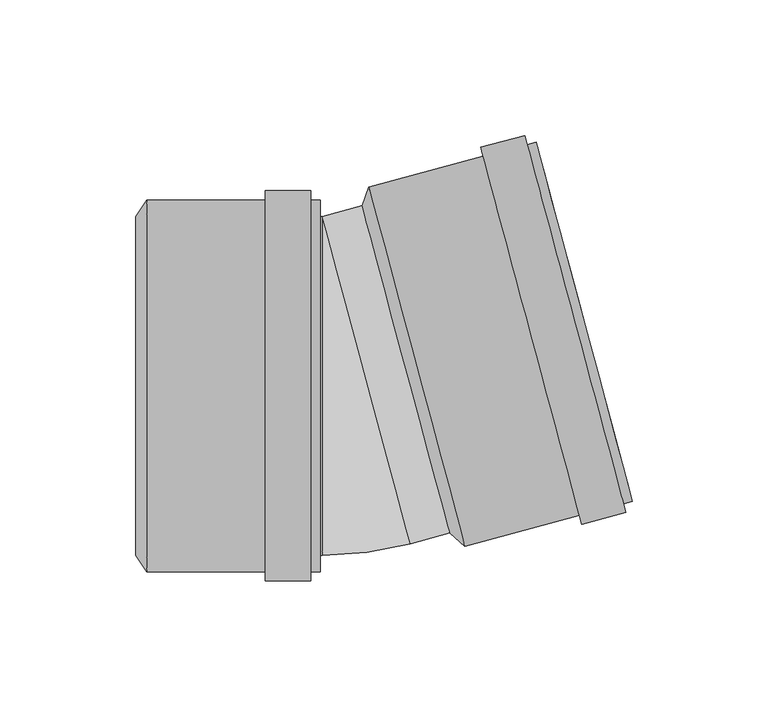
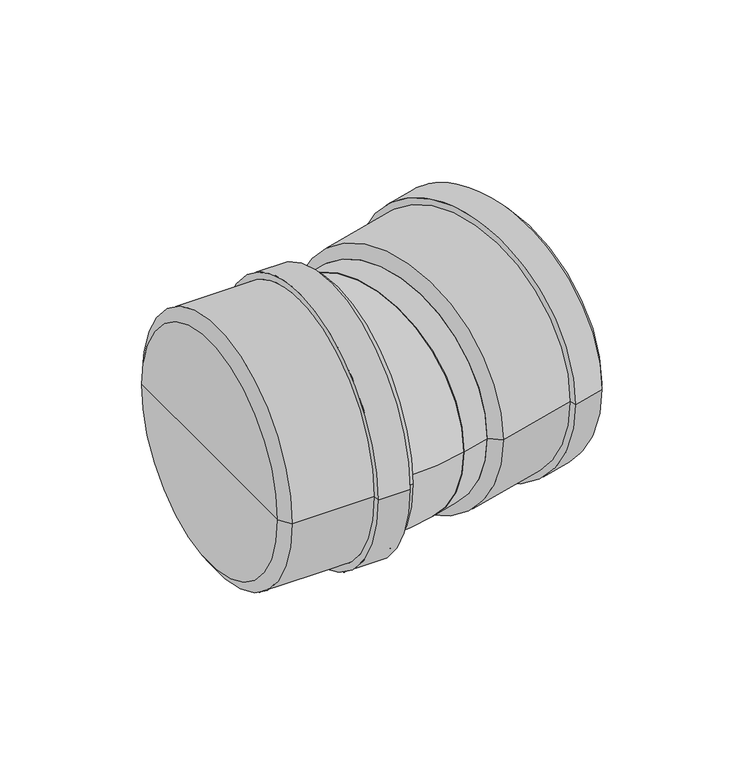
"""IFC4 building model written with IfcOpenShell, lengths in millimetres: pipe fitting geometry, pf_KGB : pf_KGB."""

from ifc_helpers import new_model, si_unit, point, frame, origin, origin_2d, place, context, project, spatial, polyline, circle_curve, ellipse_curve, trimmed, segment, composite_curve, outline, extrude, source, transform, mapped, element, save
from ifc_brep_helpers import plane_surface, cylinder_surface, revolved_surface, advanced_brep


def pipe_fitting_c8b2bdba(model_context):
    return source(origin(), model_context, "Body", "SolidModel", [
        advanced_brep(
        [(38.7788547, -54.3139985, 0.0), (6.426474, 66.4267298, 0.0), (8.8079737, 73.3800354, 0.0), (44.3179467, -59.1449879, 0.0), (22.6026643, 6.0563657, 0.0), (106.040607, -42.606451, 0.0), (70.530634, 89.9185724, 0.0), (72.1094302, 84.0264249, 0.0), (104.4618108, -36.7143034, 0.0), (67.2464862, 89.0385877, 0.0), (102.7564592, -43.4864357, 0.0), (66.3665015, 92.3227355, 0.0), (103.636444, -46.7705835, 0.0), (50.1389476, 87.9745755, 0.0), (87.4088901, -51.1187435, 0.0), (51.0189323, 84.6904277, 0.0), (86.5289053, -47.8345957, 0.0), (42.7391505, -53.2528404, 0.0), (10.3867699, 67.4878879, 0.0), (26.5629602, 7.1175237, 0.0)],
        [
            (0, 1, circle_curve(frame((22.6026643, 6.0563657, 0.0), z_axis=(0.9659258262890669, 0.2588190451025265, 0.0), x_axis=(-0.25881904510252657, 0.9659258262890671, 0.0)), 62.5)),
            (1, 2),
            (2, 3, circle_curve(frame((26.5629602, 7.1175237, 0.0), z_axis=(-0.9659258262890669, -0.2588190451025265, 0.0), x_axis=(-0.25881904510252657, 0.9659258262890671, 0.0)), 68.6)),
            (3, 0),
            (1, 0, circle_curve(frame((22.6026643, 6.0563657, 0.0), z_axis=(0.9659258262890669, 0.2588190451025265, 0.0), x_axis=(-0.25881904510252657, 0.9659258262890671, 0.0)), 62.5)),
            (3, 2, circle_curve(frame((26.5629602, 7.1175237, 0.0), z_axis=(-0.9659258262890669, -0.2588190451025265, 0.0), x_axis=(-0.25881904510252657, 0.9659258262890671, 0.0)), 68.6)),
            (4, 1),
            (0, 4),
            (5, 6, circle_curve(frame((88.2856205, 23.6560607, 0.0), z_axis=(0.9659258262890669, 0.2588190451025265, 0.0), x_axis=(-0.25881904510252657, 0.9659258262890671, 0.0)), 68.6)),
            (6, 7),
            (7, 8, circle_curve(frame((88.2856205, 23.6560607, 0.0), z_axis=(-0.9659258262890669, -0.2588190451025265, 0.0), x_axis=(-0.25881904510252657, 0.9659258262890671, 0.0)), 62.5)),
            (8, 5),
            (9, 10, circle_curve(frame((85.0014727, 22.776076, 0.0), z_axis=(0.9659258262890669, 0.2588190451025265, 0.0), x_axis=(-0.25881904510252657, 0.9659258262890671, 0.0)), 68.6)),
            (10, 5),
            (5, 6, circle_curve(frame((88.2856205, 23.6560607, 0.0), z_axis=(-0.9659258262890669, -0.2588190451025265, 0.0), x_axis=(-0.25881904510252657, 0.9659258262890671, 0.0)), 68.6)),
            (6, 9),
            (11, 12, circle_curve(frame((85.0014727, 22.776076, 0.0), z_axis=(0.9659258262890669, 0.2588190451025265, 0.0), x_axis=(-0.25881904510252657, 0.9659258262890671, 0.0)), 72.0)),
            (12, 10),
            (9, 11),
            (13, 14, circle_curve(frame((68.7739188, 18.427916, 0.0), z_axis=(0.9659258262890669, 0.2588190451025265, 0.0), x_axis=(-0.25881904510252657, 0.9659258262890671, 0.0)), 72.0)),
            (14, 12),
            (11, 13),
            (15, 16, circle_curve(frame((68.7739188, 18.427916, 0.0), z_axis=(0.9659258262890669, 0.2588190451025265, 0.0), x_axis=(-0.25881904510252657, 0.9659258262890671, 0.0)), 68.6)),
            (16, 14),
            (13, 15),
            (8, 7, circle_curve(frame((88.2856205, 23.6560607, 0.0), z_axis=(-0.9659258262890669, -0.2588190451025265, 0.0), x_axis=(-0.25881904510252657, 0.9659258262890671, 0.0)), 62.5)),
            (10, 9, circle_curve(frame((85.0014727, 22.776076, 0.0), z_axis=(0.9659258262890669, 0.2588190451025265, 0.0), x_axis=(-0.25881904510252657, 0.9659258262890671, 0.0)), 68.6)),
            (12, 11, circle_curve(frame((85.0014727, 22.776076, 0.0), z_axis=(0.9659258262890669, 0.2588190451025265, 0.0), x_axis=(-0.25881904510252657, 0.9659258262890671, 0.0)), 72.0)),
            (14, 13, circle_curve(frame((68.7739188, 18.427916, 0.0), z_axis=(0.9659258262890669, 0.2588190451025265, 0.0), x_axis=(-0.25881904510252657, 0.9659258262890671, 0.0)), 72.0)),
            (16, 15, circle_curve(frame((68.7739188, 18.427916, 0.0), z_axis=(0.9659258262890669, 0.2588190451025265, 0.0), x_axis=(-0.25881904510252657, 0.9659258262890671, 0.0)), 68.6)),
            (2, 15),
            (16, 3),
            (17, 18, circle_curve(frame((26.5629602, 7.1175237, 0.0), z_axis=(0.9659258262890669, 0.2588190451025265, 0.0), x_axis=(-0.25881904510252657, 0.9659258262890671, 0.0)), 62.5)),
            (18, 19),
            (19, 17),
            (18, 17, circle_curve(frame((26.5629602, 7.1175237, 0.0), z_axis=(0.9659258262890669, 0.2588190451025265, 0.0), x_axis=(-0.25881904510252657, 0.9659258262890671, 0.0)), 62.5)),
            (7, 18),
            (17, 8),
        ],
        [
            revolved_surface(polyline([(8.8079737, 73.3800354, 0.0), (6.426474, 66.4267298, 0.0)]), (22.6026643, 6.0563657, 0.0), (-0.9659258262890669, -0.2588190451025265, 0.0)),
            plane_surface(frame((22.6026643, 6.0563657, 0.0), z_axis=(-0.9659258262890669, -0.2588190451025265, 0.0), x_axis=(-0.2588190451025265, 0.9659258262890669, 0.0))),
            plane_surface(frame((88.2856205, 23.6560607, 0.0), z_axis=(0.9659258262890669, 0.2588190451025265, 0.0), x_axis=(-0.2588190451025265, 0.9659258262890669, 0.0))),
            cylinder_surface(frame((22.6026643, 6.0563657, 0.0), z_axis=(-0.9659258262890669, -0.2588190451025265, 0.0), x_axis=(-0.25881904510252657, 0.9659258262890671, 0.0)), 68.6),
            plane_surface(frame((85.0014727, 22.776076, 0.0), z_axis=(0.9659258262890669, 0.2588190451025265, 0.0), x_axis=(-0.2588190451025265, 0.9659258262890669, 0.0))),
            cylinder_surface(frame((22.6026643, 6.0563657, 0.0), z_axis=(-0.9659258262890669, -0.2588190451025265, 0.0), x_axis=(-0.25881904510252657, 0.9659258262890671, 0.0)), 72.0),
            plane_surface(frame((68.7739188, 18.427916, 0.0), z_axis=(-0.9659258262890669, -0.2588190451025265, 0.0), x_axis=(-0.2588190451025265, 0.9659258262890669, 0.0))),
            plane_surface(frame((26.5629602, 7.1175237, 0.0), z_axis=(0.9659258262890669, 0.2588190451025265, 0.0), x_axis=(-0.2588190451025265, 0.9659258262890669, 0.0))),
            revolved_surface(polyline([(10.386769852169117, 67.48788792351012, 0.0), (72.10943019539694, 84.02642491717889, 0.0)]), (22.6026643, 6.0563657, 0.0), (-0.9659258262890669, -0.2588190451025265, 0.0)),
        ],
        [
            (0, [[1, 2, 3, 4]]),
            (0, [[5, -4, 6, -2]]),
            (1, [[7, -1, 8]]),
            (1, [[-8, -5, -7]]),
            (2, [[9, 10, 11, 12]]),
            (3, [[13, 14, 15, 16]]),
            (4, [[17, 18, -13, 19]]),
            (5, [[20, 21, -17, 22]]),
            (6, [[23, 24, -20, 25]]),
            (2, [[-15, -12, 26, -10]]),
            (3, [[27, -16, -9, -14]]),
            (4, [[28, -19, -27, -18]]),
            (5, [[29, -22, -28, -21]]),
            (6, [[30, -25, -29, -24]]),
            (3, [[-3, 31, -30, 32]]),
            (3, [[-6, -32, -23, -31]]),
            (7, [[33, 34, 35]]),
            (7, [[36, -35, -34]]),
            (8, [[-11, 37, -33, 38]]),
            (8, [[-26, -38, -36, -37]]),
        ],
    ),
        advanced_brep(
        [(-77.1, -62.5, 0.0), (-77.1, 62.5, 0.0), (-73.0, 68.6, 0.0), (-73.0, -68.6, 0.0), (-77.1, 0.0, 0.0), (-9.1, -68.6, 0.0), (-9.1, 68.6, 0.0), (-9.1, 62.5, 0.0), (-9.1, -62.5, 0.0), (-12.5, 68.6, 0.0), (-12.5, -68.6, 0.0), (-12.5, 72.0, 0.0), (-12.5, -72.0, 0.0), (-29.3, 72.0, 0.0), (-29.3, -72.0, 0.0), (-29.3, 68.6, 0.0), (-29.3, -68.6, 0.0), (-73.0, -62.5, 0.0), (-73.0, 62.5, 0.0), (-73.0, 0.0, 0.0)],
        [
            (0, 1, circle_curve(frame((-77.1, 0.0, 0.0), z_axis=(1.0, 0.0, 0.0), x_axis=(0.0, 1.0, 0.0)), 62.5)),
            (1, 2),
            (2, 3, circle_curve(frame((-73.0, 0.0, 0.0), z_axis=(-1.0, 0.0, 0.0), x_axis=(0.0, 1.0, 0.0)), 68.6)),
            (3, 0),
            (1, 0, circle_curve(frame((-77.1, 0.0, 0.0), z_axis=(1.0, 0.0, 0.0), x_axis=(0.0, 1.0, 0.0)), 62.5)),
            (3, 2, circle_curve(frame((-73.0, 0.0, 0.0), z_axis=(-1.0, 0.0, 0.0), x_axis=(0.0, 1.0, 0.0)), 68.6)),
            (4, 1),
            (0, 4),
            (5, 6, circle_curve(frame((-9.1, 0.0, 0.0), z_axis=(1.0, 0.0, 0.0), x_axis=(0.0, 1.0, 0.0)), 68.6)),
            (6, 7),
            (7, 8, circle_curve(frame((-9.1, 0.0, 0.0), z_axis=(-1.0, 0.0, 0.0), x_axis=(0.0, 1.0, 0.0)), 62.5)),
            (8, 5),
            (9, 10, circle_curve(frame((-12.5, 0.0, 0.0), z_axis=(1.0, 0.0, 0.0), x_axis=(0.0, 1.0, 0.0)), 68.6)),
            (10, 5),
            (5, 6, circle_curve(frame((-9.1, 0.0, 0.0), z_axis=(-1.0, 0.0, 0.0), x_axis=(0.0, 1.0, 0.0)), 68.6)),
            (6, 9),
            (11, 12, circle_curve(frame((-12.5, 0.0, 0.0), z_axis=(1.0, 0.0, 0.0), x_axis=(0.0, 1.0, 0.0)), 72.0)),
            (12, 10),
            (9, 11),
            (13, 14, circle_curve(frame((-29.3, 0.0, 0.0), z_axis=(1.0, 0.0, 0.0), x_axis=(0.0, 1.0, 0.0)), 72.0)),
            (14, 12),
            (11, 13),
            (15, 16, circle_curve(frame((-29.3, 0.0, 0.0), z_axis=(1.0, 0.0, 0.0), x_axis=(0.0, 1.0, 0.0)), 68.6)),
            (16, 14),
            (13, 15),
            (8, 7, circle_curve(frame((-9.1, 0.0, 0.0), z_axis=(-1.0, 0.0, 0.0), x_axis=(0.0, 1.0, 0.0)), 62.5)),
            (10, 9, circle_curve(frame((-12.5, 0.0, 0.0), z_axis=(1.0, 0.0, 0.0), x_axis=(0.0, 1.0, 0.0)), 68.6)),
            (12, 11, circle_curve(frame((-12.5, 0.0, 0.0), z_axis=(1.0, 0.0, 0.0), x_axis=(0.0, 1.0, 0.0)), 72.0)),
            (14, 13, circle_curve(frame((-29.3, 0.0, 0.0), z_axis=(1.0, 0.0, 0.0), x_axis=(0.0, 1.0, 0.0)), 72.0)),
            (16, 15, circle_curve(frame((-29.3, 0.0, 0.0), z_axis=(1.0, 0.0, 0.0), x_axis=(0.0, 1.0, 0.0)), 68.6)),
            (2, 15),
            (16, 3),
            (17, 18, circle_curve(frame((-73.0, 0.0, 0.0), z_axis=(1.0, 0.0, 0.0), x_axis=(0.0, 1.0, 0.0)), 62.5)),
            (18, 19),
            (19, 17),
            (18, 17, circle_curve(frame((-73.0, 0.0, 0.0), z_axis=(1.0, 0.0, 0.0), x_axis=(0.0, 1.0, 0.0)), 62.5)),
            (7, 18),
            (17, 8),
        ],
        [
            revolved_surface(polyline([(-73.0, 68.6, 0.0), (-77.1, 62.5, 0.0)]), (-77.1, 0.0, 0.0), (-1.0, 0.0, 0.0)),
            plane_surface(frame((-77.1, 0.0, 0.0), z_axis=(-1.0, 0.0, 0.0), x_axis=(0.0, 1.0, 0.0))),
            plane_surface(frame((-9.1, 0.0, 0.0), z_axis=(1.0, 0.0, 0.0), x_axis=(0.0, 1.0, 0.0))),
            cylinder_surface(frame((-77.1, 0.0, 0.0), z_axis=(-1.0, 0.0, 0.0), x_axis=(0.0, 1.0, 0.0)), 68.6),
            plane_surface(frame((-12.5, 0.0, 0.0), z_axis=(1.0, 0.0, 0.0), x_axis=(0.0, 1.0, 0.0))),
            cylinder_surface(frame((-77.1, 0.0, 0.0), z_axis=(-1.0, 0.0, 0.0), x_axis=(0.0, 1.0, 0.0)), 72.0),
            plane_surface(frame((-29.3, 0.0, 0.0), z_axis=(-1.0, 0.0, 0.0), x_axis=(0.0, 1.0, 0.0))),
            plane_surface(frame((-73.0, 0.0, 0.0), z_axis=(1.0, 0.0, 0.0), x_axis=(0.0, 1.0, 0.0))),
            revolved_surface(polyline([(-73.0, 62.5, 0.0), (-9.099999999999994, 62.5, 0.0)]), (-77.1, 0.0, 0.0), (-1.0, 0.0, 0.0)),
        ],
        [
            (0, [[1, 2, 3, 4]]),
            (0, [[5, -4, 6, -2]]),
            (1, [[7, -1, 8]]),
            (1, [[-8, -5, -7]]),
            (2, [[9, 10, 11, 12]]),
            (3, [[13, 14, 15, 16]]),
            (4, [[17, 18, -13, 19]]),
            (5, [[20, 21, -17, 22]]),
            (6, [[23, 24, -20, 25]]),
            (2, [[-15, -12, 26, -10]]),
            (3, [[27, -16, -9, -14]]),
            (4, [[28, -19, -27, -18]]),
            (5, [[29, -22, -28, -21]]),
            (6, [[30, -25, -29, -24]]),
            (3, [[-3, 31, -30, 32]]),
            (3, [[-6, -32, -23, -31]]),
            (7, [[33, 34, 35]]),
            (7, [[36, -35, -34]]),
            (8, [[-11, 37, -33, 38]]),
            (8, [[-26, -38, -36, -37]]),
        ],
    ),
        extrude(outline(composite_curve([segment(trimmed(circle_curve(origin_2d(), 62.5), [point((0.0, -62.5))], [point((0.0, 62.5000001))], False, "CARTESIAN"), True, "CONTINUOUS"), segment(trimmed(circle_curve(origin_2d(), 62.5), [point((0.0, 62.5000001))], [point((0.0, -62.5))], False, "CARTESIAN"), True, "CONTINUOUS")], self_intersect=False)), frame((7.9479092, 2.1296359, 0.0), z_axis=(0.9659258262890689, 0.25881904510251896, 0.0), x_axis=(0.0, 0.0, 1.0)), (0.0, 0.0, 1.0), 15.1717189),
        extrude(outline(composite_curve([segment(trimmed(circle_curve(origin_2d(), 62.5), [point((-62.5, 0.0))], [point((62.5, 0.0))], False, "CARTESIAN"), True, "CONTINUOUS"), segment(trimmed(circle_curve(origin_2d(), 62.5), [point((62.5, 0.0))], [point((-62.5, 0.0))], False, "CARTESIAN"), True, "CONTINUOUS")], self_intersect=False)), frame((-73.0, 0.0, 0.0), z_axis=(1.0, 0.0, 0.0), x_axis=(0.0, 1.0, 0.0)), (0.0, 0.0, 1.0), 64.7717189),
        advanced_brep(
        [(-8.2282811, -62.5, 0.0), (-8.2282811, 62.5, 0.0), (24.1240995, -58.2407283, 0.0)],
        [
            (0, 1, circle_curve(frame((-8.2282811, 0.0, 0.0), z_axis=(-1.0, 0.0, 0.0), x_axis=(0.0, 1.0, 0.0)), 62.5)),
            (1, 0, circle_curve(frame((-8.2282811, 0.0, 0.0), z_axis=(-1.0, 0.0, 0.0), x_axis=(0.0, 1.0, 0.0)), 62.5)),
            (2, 1, circle_curve(frame((7.9479092, 2.1296359, 0.0), z_axis=(0.9659258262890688, 0.25881904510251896, 0.0), x_axis=(-0.25881904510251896, 0.9659258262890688, 0.0)), 62.5)),
            (1, 2, circle_curve(frame((7.9479092, 2.1296359, 0.0), z_axis=(0.9659258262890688, 0.25881904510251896, 0.0), x_axis=(-0.25881904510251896, 0.9659258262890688, 0.0)), 62.5)),
            (2, 0, circle_curve(frame((-8.2282811, 62.5, 0.0), z_axis=(0.0, 0.0, -1.0), x_axis=(0.0, -1.0, 0.0)), 125.0)),
        ],
        [
            plane_surface(frame((-8.2282811, 62.5, -14.8), z_axis=(-1.0, 0.0, 0.0), x_axis=(0.0, -1.0, 0.0))),
            plane_surface(frame((-8.2282811, 62.5, -14.8), z_axis=(0.9659258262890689, 0.258819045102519, 0.0), x_axis=(0.258819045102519, -0.9659258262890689, 0.0))),
            revolved_surface(trimmed(ellipse_curve(frame((-8.2282811, 0.0, 0.0), z_axis=(1.0, 0.0, 0.0), x_axis=(0.0, 1.0, 0.0)), 62.5, 62.5), [point((-8.2282811, -62.5, 0.0))], [point((-8.2282811, 62.5, 0.0))], True, "CARTESIAN"), (-8.2282811, 62.5, -14.8), (0.0, 0.0, -1.0)),
            revolved_surface(trimmed(ellipse_curve(frame((-8.2282811, 0.0, 0.0), z_axis=(1.0, 0.0, 0.0), x_axis=(0.0, 1.0, 0.0)), 62.5, 62.5), [point((-8.2282811, 62.5, 0.0))], [point((-8.2282811, -62.5, 0.0))], True, "CARTESIAN"), (-8.2282811, 62.5, -14.8), (0.0, 0.0, -1.0)),
        ],
        [
            (0, [[1, 2]]),
            (1, [[3, 4]]),
            (2, [[5, -2, -3]]),
            (3, [[-1, -5, -4]]),
        ],
    ),
    ])


if __name__ == "__main__":
    model = new_model("IFC4")
    model_context = context("Model", 3, world=origin())
    ifc_project = project(units=[si_unit("LENGTHUNIT", "METRE", prefix="MILLI")], contexts=[model_context])
    site = spatial("IfcSite", under=ifc_project)
    building = spatial("IfcBuilding", under=site)
    placement = place(None, origin())
    pipe_fitting_shape = pipe_fitting_c8b2bdba(model_context)
    element("IfcPipeFitting", 1, ObjectType="pf_KGB : pf_KGB", at=placement, inside=building, context=model_context, shape_type="MappedRepresentation", body=[
        mapped(pipe_fitting_shape, transform((0.0, 0.0, 0.0), x_axis=(1.0, 0.0, 0.0), y_axis=(0.0, 1.0, 0.0), z_axis=(0.0, 0.0, 1.0))),
    ])
    save(model, "model.ifc")
